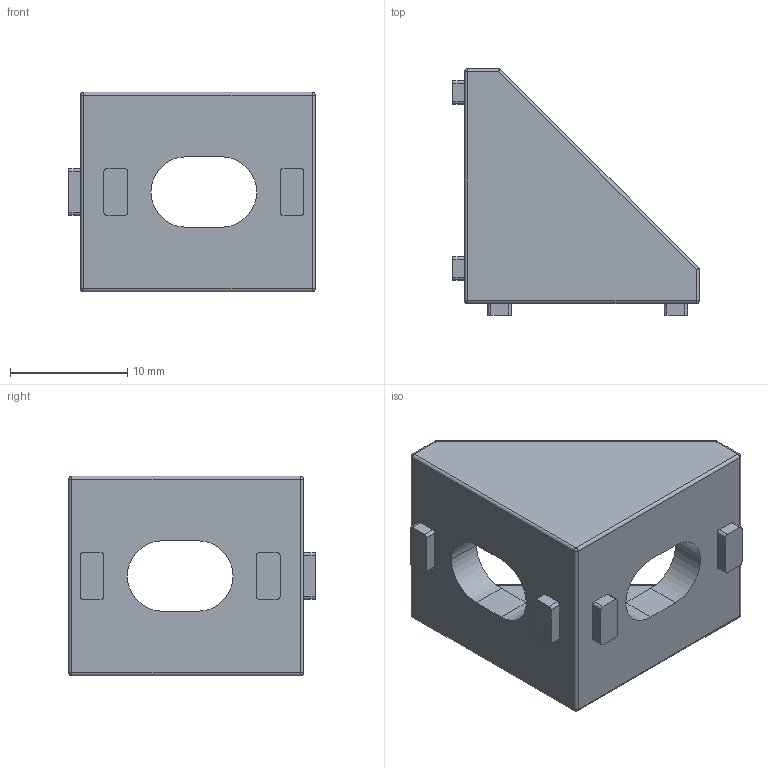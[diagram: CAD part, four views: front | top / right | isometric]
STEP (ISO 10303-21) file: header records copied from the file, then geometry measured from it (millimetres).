
FILE_DESCRIPTION (( 'STEP AP214' ), '1' );
FILE_NAME ('1.3016 Kulma 16.STEP', '2024-01-11T10:49:20', ( '' ), ( '' ), 'SwSTEP 2.0', 'SolidWorks 2024', '' );
FILE_SCHEMA (( 'AUTOMOTIVE_DESIGN' ));
Length unit declared in the file: millimetre
Products named in the file (1): 1.3016 Kulma 16
Bounding box: 21 x 21 x 17 mm (x, y, z)
Volume: 2216 mm3; surface area: 2104.8 mm2
Topology: 1 solids, 1 shells, 78 faces, 196 edges, 118 vertices
Faces by surface type: cylinder 36, plane 36, sphere 6
Entity records: 2297 total; most frequent: CARTESIAN_POINT 411, DIRECTION 400, ORIENTED_EDGE 380, EDGE_CURVE 190, AXIS2_PLACEMENT_3D 139, LINE 122, VECTOR 122, VERTEX_POINT 118
